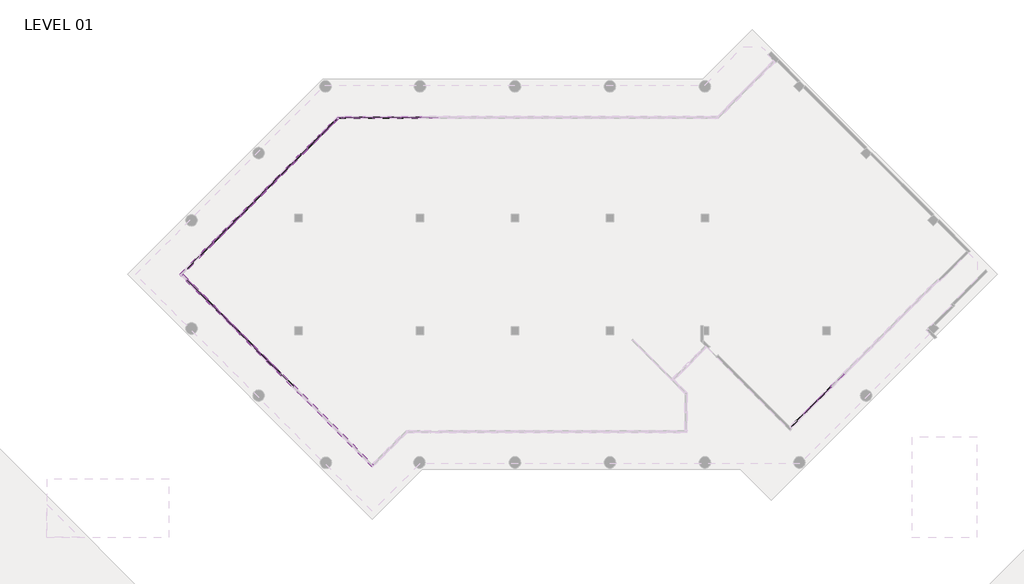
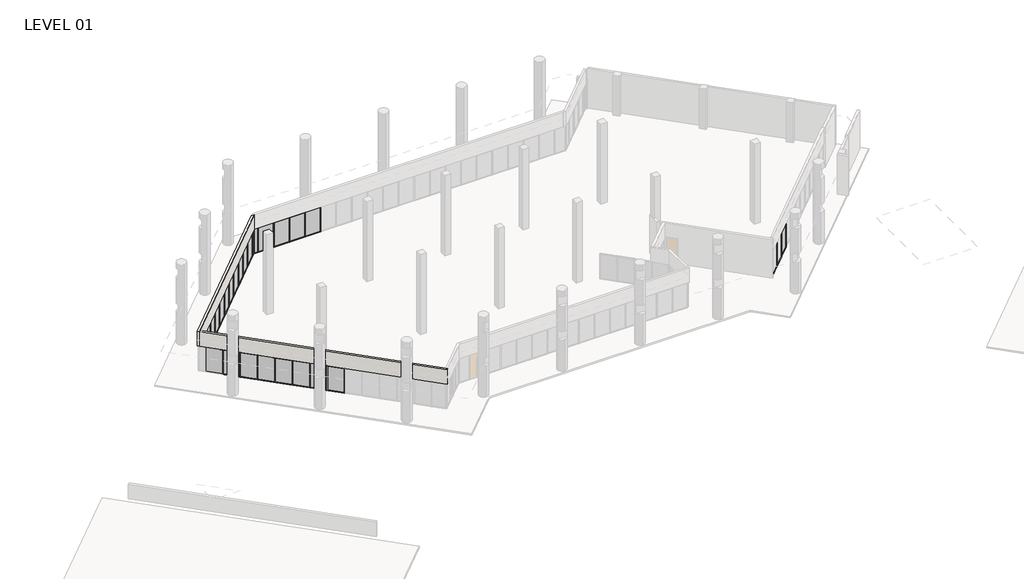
# One storey, part 12 of 24: 82 members, 26 plates, 2 walls.
"""IFC4 building model written with IfcOpenShell, lengths in millimetres."""

from ifc_helpers import new_model, si_unit, origin, place, context, project, spatial, faceted_brep, transform, mapped, element, save
from components import member_5247f267, member_16770488, member_1d3a199d, member_57f2eb73, member_e44af9ab, member_800970d4, member_cca1f9e6, plate_67294edd, plate_53ca565f, plate_8062c6fe, plate_87d7c655

model = new_model("IFC4")

# Units and contexts
model_context = context("Model", 3, world=origin())
ifc_project = project(units=[si_unit("LENGTHUNIT", "METRE", prefix="MILLI")], contexts=[model_context])

# Site, building, storey
site = spatial("IfcSite", under=ifc_project)
building = spatial("IfcBuilding", under=site)
storey = spatial("IfcBuildingStorey", under=building, Name="LEVEL 01", Elevation=0.0)

# Members
placement = place(None, origin())
member_shape = member_5247f267(model_context)
element("IfcMember", 1, ObjectType="Rectangular Mullion : 2\" x 4.5\" rectangular", at=placement, inside=storey, context=model_context, shape_type="MappedRepresentation", body=[
    mapped(member_shape, transform((18370.55, 117137.1023049, 0.0), x_axis=(0.0, 0.0, -1.0), y_axis=(0.0, 1.0, 0.0), z_axis=(1.0, 0.0, 0.0))),
])
element("IfcMember", 2, ObjectType="Rectangular Mullion : 2\" x 4.5\" rectangular", at=placement, inside=storey, context=model_context, shape_type="MappedRepresentation", body=[
    mapped(member_shape, transform((13798.55, 117137.1023049, 0.0), x_axis=(0.0, 0.0, -1.0), y_axis=(0.0, 1.0, 0.0), z_axis=(1.0, 0.0, 0.0))),
])
element("IfcMember", 3, ObjectType="Rectangular Mullion : 2\" x 4.5\" rectangular", at=placement, inside=storey, context=model_context, shape_type="MappedRepresentation", body=[
    mapped(member_shape, transform((9357.2482055, 114645.256013, 0.0), x_axis=(0.0, 0.0, -1.0), y_axis=(-0.7071067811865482, 0.7071067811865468, 0.0), z_axis=(0.7071067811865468, 0.7071067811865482, 0.0))),
])
element("IfcMember", 4, ObjectType="Rectangular Mullion : 2\" x 4.5\" rectangular", at=placement, inside=storey, context=model_context, shape_type="MappedRepresentation", body=[
    mapped(member_shape, transform((7201.9867365, 112489.994544, 0.0), x_axis=(0.0, 0.0, -1.0), y_axis=(-0.7071067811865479, 0.7071067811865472, 0.0), z_axis=(0.7071067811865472, 0.7071067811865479, 0.0))),
])
element("IfcMember", 5, ObjectType="Rectangular Mullion : 2\" x 4.5\" rectangular", at=placement, inside=storey, context=model_context, shape_type="MappedRepresentation", body=[
    mapped(member_shape, transform((6124.3560019, 111412.3638095, 0.0), x_axis=(0.0, 0.0, -1.0), y_axis=(-0.7071067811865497, 0.7071067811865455, 0.0), z_axis=(0.7071067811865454, 0.7071067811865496, 0.0))),
])
element("IfcMember", 6, ObjectType="Rectangular Mullion : 2\" x 4.5\" rectangular", at=placement, inside=storey, context=model_context, shape_type="MappedRepresentation", body=[
    mapped(member_shape, transform((5046.7252674, 110334.7330749, 0.0), x_axis=(0.0, 0.0, -1.0), y_axis=(-0.7071067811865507, 0.7071067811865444, 0.0), z_axis=(0.7071067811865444, 0.7071067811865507, 0.0))),
])
element("IfcMember", 7, ObjectType="Rectangular Mullion : 2\" x 4.5\" rectangular", at=placement, inside=storey, context=model_context, shape_type="MappedRepresentation", body=[
    mapped(member_shape, transform((2891.4637983, 108179.4716059, 0.0), x_axis=(0.0, 0.0, -1.0), y_axis=(-0.7071067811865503, 0.7071067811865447, 0.0), z_axis=(0.7071067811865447, 0.7071067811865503, 0.0))),
])
element("IfcMember", 8, ObjectType="Rectangular Mullion : 2\" x 4.5\" rectangular", at=placement, inside=storey, context=model_context, shape_type="MappedRepresentation", body=[
    mapped(member_shape, transform((1813.8330638, 107101.8408713, 0.0), x_axis=(0.0, 0.0, -1.0), y_axis=(-0.7071067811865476, 0.7071067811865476, 0.0), z_axis=(0.7071067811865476, 0.7071067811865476, 0.0))),
])
element("IfcMember", 9, ObjectType="Rectangular Mullion : 2\" x 4.5\" rectangular", at=placement, inside=storey, context=model_context, shape_type="MappedRepresentation", body=[
    mapped(member_shape, transform((772.3020264, 103023.4447759, 0.0), x_axis=(0.0, 0.0, -1.0), y_axis=(-0.707106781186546, -0.707106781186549, 0.0), z_axis=(-0.707106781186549, 0.707106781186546, 0.0))),
])
element("IfcMember", 10, ObjectType="Rectangular Mullion : 2\" x 4.5\" rectangular", at=placement, inside=storey, context=model_context, shape_type="MappedRepresentation", body=[
    mapped(member_shape, transform((2927.5634955, 100868.1833069, 0.0), x_axis=(0.0, 0.0, -1.0), y_axis=(-0.7071067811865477, -0.7071067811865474, 0.0), z_axis=(-0.7071067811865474, 0.7071067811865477, 0.0))),
])
element("IfcMember", 11, ObjectType="Rectangular Mullion : 2\" x 4.5\" rectangular", at=placement, inside=storey, context=model_context, shape_type="MappedRepresentation", body=[
    mapped(member_shape, transform((5082.8249645, 98712.9218378, 0.0), x_axis=(0.0, 0.0, -1.0), y_axis=(-0.7071067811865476, -0.7071067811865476, 0.0), z_axis=(-0.7071067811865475, 0.7071067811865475, 0.0))),
])
element("IfcMember", 12, ObjectType="Rectangular Mullion : 2\" x 4.5\" rectangular", at=placement, inside=storey, context=model_context, shape_type="MappedRepresentation", body=[
    mapped(member_shape, transform((7237.7290883, 96558.017714, 0.0), x_axis=(0.0, 0.0, -1.0), y_axis=(-0.7071067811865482, -0.7071067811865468, 0.0), z_axis=(-0.7071067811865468, 0.7071067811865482, 0.0))),
])
element("IfcMember", 13, ObjectType="Rectangular Mullion : 2\" x 4.5\" rectangular", at=placement, inside=storey, context=model_context, shape_type="MappedRepresentation", body=[
    mapped(member_shape, transform((50258.626106, 94402.4729083, 0.0), x_axis=(0.0, 0.0, -1.0), y_axis=(-0.7071067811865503, 0.7071067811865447, 0.0), z_axis=(0.7071067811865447, 0.7071067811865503, 0.0))),
])
element("IfcMember", 14, ObjectType="Rectangular Mullion : 2\" x 4.5\" rectangular", at=placement, inside=storey, context=model_context, shape_type="MappedRepresentation", body=[
    mapped(member_shape, transform((16846.55, 117137.1023049, 0.0), x_axis=(0.0, 0.0, -1.0), y_axis=(0.0, 1.0, 0.0), z_axis=(1.0, 0.0, 0.0))),
])
element("IfcMember", 15, ObjectType="Rectangular Mullion : 2\" x 4.5\" rectangular", at=placement, inside=storey, context=model_context, shape_type="MappedRepresentation", body=[
    mapped(member_shape, transform((15322.55, 117137.1023049, 0.0), x_axis=(0.0, 0.0, -1.0), y_axis=(0.0, 1.0, 0.0), z_axis=(1.0, 0.0, 0.0))),
])
element("IfcMember", 16, ObjectType="Rectangular Mullion : 2\" x 4.5\" rectangular", at=placement, inside=storey, context=model_context, shape_type="MappedRepresentation", body=[
    mapped(member_shape, transform((736.2023293, 106024.2101368, 0.0), x_axis=(0.0, 0.0, -1.0), y_axis=(-0.7071067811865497, 0.7071067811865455, 0.0), z_axis=(0.7071067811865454, 0.7071067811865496, 0.0))),
])
element("IfcMember", 17, ObjectType="Rectangular Mullion : 2\" x 4.5\" rectangular", at=placement, inside=storey, context=model_context, shape_type="MappedRepresentation", body=[
    mapped(member_shape, transform((3969.0945329, 109257.1023404, 0.0), x_axis=(0.0, 0.0, -1.0), y_axis=(-0.7071067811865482, 0.7071067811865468, 0.0), z_axis=(0.7071067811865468, 0.7071067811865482, 0.0))),
])
element("IfcMember", 18, ObjectType="Rectangular Mullion : 2\" x 4.5\" rectangular", at=placement, inside=storey, context=model_context, shape_type="MappedRepresentation", body=[
    mapped(member_shape, transform((8279.617471, 113567.6252785, 0.0), x_axis=(0.0, 0.0, -1.0), y_axis=(-0.70710678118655, 0.707106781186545, 0.0), z_axis=(0.707106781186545, 0.70710678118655, 0.0))),
])
element("IfcMember", 19, ObjectType="Rectangular Mullion : 2\" x 4.5\" rectangular", at=placement, inside=storey, context=model_context, shape_type="MappedRepresentation", body=[
    mapped(member_shape, transform((10434.87894, 115722.8867476, 0.0), x_axis=(0.0, 0.0, -1.0), y_axis=(-0.7071067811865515, 0.7071067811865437, 0.0), z_axis=(0.7071067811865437, 0.7071067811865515, 0.0))),
])
element("IfcMember", 20, ObjectType="Rectangular Mullion : 2\" x 4.5\" rectangular", at=placement, inside=storey, context=model_context, shape_type="MappedRepresentation", body=[
    mapped(member_shape, transform((11512.5096746, 116800.5174821, 0.0), x_axis=(0.0, 0.0, -1.0), y_axis=(-0.707106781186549, 0.7071067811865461, 0.0), z_axis=(0.7071067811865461, 0.707106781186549, 0.0))),
])
element("IfcMember", 21, ObjectType="Rectangular Mullion : 2\" x 4.5\" rectangular", at=placement, inside=storey, context=model_context, shape_type="MappedRepresentation", body=[
    mapped(member_shape, transform((1849.9327609, 101945.8140414, 0.0), x_axis=(0.0, 0.0, -1.0), y_axis=(-0.7071067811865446, -0.7071067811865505, 0.0), z_axis=(-0.7071067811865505, 0.7071067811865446, 0.0))),
])
element("IfcMember", 22, ObjectType="Rectangular Mullion : 2\" x 4.5\" rectangular", at=placement, inside=storey, context=model_context, shape_type="MappedRepresentation", body=[
    mapped(member_shape, transform((4005.19423, 99790.5525723, 0.0), x_axis=(0.0, 0.0, -1.0), y_axis=(-0.7071067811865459, -0.7071067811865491, 0.0), z_axis=(-0.7071067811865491, 0.7071067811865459, 0.0))),
])
element("IfcMember", 23, ObjectType="Rectangular Mullion : 2\" x 4.5\" rectangular", at=placement, inside=storey, context=model_context, shape_type="MappedRepresentation", body=[
    mapped(member_shape, transform((51336.2568405, 95480.1036428, 0.0), x_axis=(0.0, 0.0, -1.0), y_axis=(-0.7071067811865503, 0.7071067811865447, 0.0), z_axis=(0.7071067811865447, 0.7071067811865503, 0.0))),
])
element("IfcMember", 24, ObjectType="Rectangular Mullion : 2\" x 4.5\" rectangular", at=placement, inside=storey, context=model_context, shape_type="MappedRepresentation", body=[
    mapped(member_shape, transform((18421.35, 117137.1023049, 2590.8), x_axis=(0.0, 0.0, 1.0), y_axis=(0.0, 1.0, 0.0), z_axis=(-1.0, 0.0, 0.0))),
])
element("IfcMember", 25, ObjectType="Rectangular Mullion : 2\" x 4.5\" rectangular", at=placement, inside=storey, context=model_context, shape_type="MappedRepresentation", body=[
    mapped(member_shape, transform((13849.35, 117137.1023049, 2590.8), x_axis=(0.0, 0.0, 1.0), y_axis=(0.0, 1.0, 0.0), z_axis=(-1.0, 0.0, 0.0))),
])
element("IfcMember", 26, ObjectType="Rectangular Mullion : 2\" x 4.5\" rectangular", at=placement, inside=storey, context=model_context, shape_type="MappedRepresentation", body=[
    mapped(member_shape, transform((9393.16923, 114681.1770375, 2590.8), x_axis=(0.0, 0.0, 1.0), y_axis=(-0.7071067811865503, 0.7071067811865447, 0.0), z_axis=(-0.7071067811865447, -0.7071067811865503, 0.0))),
])
element("IfcMember", 27, ObjectType="Rectangular Mullion : 2\" x 4.5\" rectangular", at=placement, inside=storey, context=model_context, shape_type="MappedRepresentation", body=[
    mapped(member_shape, transform((7237.9077609, 112525.9155685, 2590.8), x_axis=(0.0, 0.0, 1.0), y_axis=(-0.7071067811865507, 0.7071067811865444, 0.0), z_axis=(-0.7071067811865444, -0.7071067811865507, 0.0))),
])
element("IfcMember", 28, ObjectType="Rectangular Mullion : 2\" x 4.5\" rectangular", at=placement, inside=storey, context=model_context, shape_type="MappedRepresentation", body=[
    mapped(member_shape, transform((6160.2770264, 111448.2848339, 2590.8), x_axis=(0.0, 0.0, 1.0), y_axis=(-0.7071067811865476, 0.7071067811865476, 0.0), z_axis=(-0.7071067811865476, -0.7071067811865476, 0.0))),
])
element("IfcMember", 29, ObjectType="Rectangular Mullion : 2\" x 4.5\" rectangular", at=placement, inside=storey, context=model_context, shape_type="MappedRepresentation", body=[
    mapped(member_shape, transform((5082.6462919, 110370.6540994, 2590.8), x_axis=(0.0, 0.0, 1.0), y_axis=(-0.7071067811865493, 0.7071067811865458, 0.0), z_axis=(-0.7071067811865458, -0.7071067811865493, 0.0))),
])
element("IfcMember", 30, ObjectType="Rectangular Mullion : 2\" x 4.5\" rectangular", at=placement, inside=storey, context=model_context, shape_type="MappedRepresentation", body=[
    mapped(member_shape, transform((2927.3848228, 108215.3926304, 2590.8), x_axis=(0.0, 0.0, 1.0), y_axis=(-0.7071067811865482, 0.7071067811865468, 0.0), z_axis=(-0.7071067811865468, -0.7071067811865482, 0.0))),
])
element("IfcMember", 31, ObjectType="Rectangular Mullion : 2\" x 4.5\" rectangular", at=placement, inside=storey, context=model_context, shape_type="MappedRepresentation", body=[
    mapped(member_shape, transform((1849.7540883, 107137.7618958, 2590.8), x_axis=(0.0, 0.0, 1.0), y_axis=(-0.7071067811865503, 0.7071067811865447, 0.0), z_axis=(-0.7071067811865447, -0.7071067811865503, 0.0))),
])
element("IfcMember", 32, ObjectType="Rectangular Mullion : 2\" x 4.5\" rectangular", at=placement, inside=storey, context=model_context, shape_type="MappedRepresentation", body=[
    mapped(member_shape, transform((736.3810019, 103059.3658004, 2590.8), x_axis=(0.0, 0.0, 1.0), y_axis=(-0.7071067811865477, -0.7071067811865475, 0.0), z_axis=(0.7071067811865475, -0.7071067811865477, 0.0))),
])
element("IfcMember", 33, ObjectType="Rectangular Mullion : 2\" x 4.5\" rectangular", at=placement, inside=storey, context=model_context, shape_type="MappedRepresentation", body=[
    mapped(member_shape, transform((2891.642471, 100904.1043313, 2590.8), x_axis=(0.0, 0.0, 1.0), y_axis=(-0.7071067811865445, -0.7071067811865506, 0.0), z_axis=(0.7071067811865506, -0.7071067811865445, 0.0))),
])
element("IfcMember", 34, ObjectType="Rectangular Mullion : 2\" x 4.5\" rectangular", at=placement, inside=storey, context=model_context, shape_type="MappedRepresentation", body=[
    mapped(member_shape, transform((5046.90394, 98748.8428623, 2590.8), x_axis=(0.0, 0.0, 1.0), y_axis=(-0.7071067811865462, -0.7071067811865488, 0.0), z_axis=(0.7071067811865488, -0.7071067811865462, 0.0))),
])
element("IfcMember", 35, ObjectType="Rectangular Mullion : 2\" x 4.5\" rectangular", at=placement, inside=storey, context=model_context, shape_type="MappedRepresentation", body=[
    mapped(member_shape, transform((50294.5471305, 94438.3939328, 2590.8), x_axis=(0.0, 0.0, 1.0), y_axis=(-0.7071067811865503, 0.7071067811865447, 0.0), z_axis=(-0.7071067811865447, -0.7071067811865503, 0.0))),
])
element("IfcMember", 36, ObjectType="Rectangular Mullion : 2\" x 4.5\" rectangular", at=placement, inside=storey, context=model_context, shape_type="MappedRepresentation", body=[
    mapped(member_shape, transform((16897.35, 117137.1023049, 2590.8), x_axis=(0.0, 0.0, 1.0), y_axis=(0.0, 1.0, 0.0), z_axis=(-1.0, 0.0, 0.0))),
])
element("IfcMember", 37, ObjectType="Rectangular Mullion : 2\" x 4.5\" rectangular", at=placement, inside=storey, context=model_context, shape_type="MappedRepresentation", body=[
    mapped(member_shape, transform((15373.35, 117137.1023049, 2590.8), x_axis=(0.0, 0.0, 1.0), y_axis=(0.0, 1.0, 0.0), z_axis=(-1.0, 0.0, 0.0))),
])
element("IfcMember", 38, ObjectType="Rectangular Mullion : 2\" x 4.5\" rectangular", at=placement, inside=storey, context=model_context, shape_type="MappedRepresentation", body=[
    mapped(member_shape, transform((12325.35, 117137.1023049, 2590.8), x_axis=(0.0, 0.0, 1.0), y_axis=(0.0, 1.0, 0.0), z_axis=(-1.0, 0.0, 0.0))),
])
element("IfcMember", 39, ObjectType="Rectangular Mullion : 2\" x 4.5\" rectangular", at=placement, inside=storey, context=model_context, shape_type="MappedRepresentation", body=[
    mapped(member_shape, transform((772.1233538, 106060.1311613, 2590.8), x_axis=(0.0, 0.0, 1.0), y_axis=(-0.7071067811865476, 0.7071067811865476, 0.0), z_axis=(-0.7071067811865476, -0.7071067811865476, 0.0))),
])
element("IfcMember", 40, ObjectType="Rectangular Mullion : 2\" x 4.5\" rectangular", at=placement, inside=storey, context=model_context, shape_type="MappedRepresentation", body=[
    mapped(member_shape, transform((4005.0155574, 109293.0233649, 2590.8), x_axis=(0.0, 0.0, 1.0), y_axis=(-0.7071067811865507, 0.7071067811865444, 0.0), z_axis=(-0.7071067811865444, -0.7071067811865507, 0.0))),
])
element("IfcMember", 41, ObjectType="Rectangular Mullion : 2\" x 4.5\" rectangular", at=placement, inside=storey, context=model_context, shape_type="MappedRepresentation", body=[
    mapped(member_shape, transform((8315.5384955, 113603.546303, 2590.8), x_axis=(0.0, 0.0, 1.0), y_axis=(-0.7071067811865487, 0.7071067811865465, 0.0), z_axis=(-0.7071067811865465, -0.7071067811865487, 0.0))),
])
element("IfcMember", 42, ObjectType="Rectangular Mullion : 2\" x 4.5\" rectangular", at=placement, inside=storey, context=model_context, shape_type="MappedRepresentation", body=[
    mapped(member_shape, transform((10470.7999645, 115758.8077721, 2590.8), x_axis=(0.0, 0.0, 1.0), y_axis=(-0.7071067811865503, 0.7071067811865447, 0.0), z_axis=(-0.7071067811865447, -0.7071067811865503, 0.0))),
])
element("IfcMember", 43, ObjectType="Rectangular Mullion : 2\" x 4.5\" rectangular", at=placement, inside=storey, context=model_context, shape_type="MappedRepresentation", body=[
    mapped(member_shape, transform((1814.0117365, 101981.7350659, 2590.8), x_axis=(0.0, 0.0, 1.0), y_axis=(-0.7071067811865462, -0.7071067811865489, 0.0), z_axis=(0.7071067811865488, -0.7071067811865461, 0.0))),
])
element("IfcMember", 44, ObjectType="Rectangular Mullion : 2\" x 4.5\" rectangular", at=placement, inside=storey, context=model_context, shape_type="MappedRepresentation", body=[
    mapped(member_shape, transform((3969.2732055, 99826.4735968, 2590.8), x_axis=(0.0, 0.0, 1.0), y_axis=(-0.7071067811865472, -0.7071067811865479, 0.0), z_axis=(0.7071067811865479, -0.7071067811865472, 0.0))),
])
element("IfcMember", 45, ObjectType="Rectangular Mullion : 2\" x 4.5\" rectangular", at=placement, inside=storey, context=model_context, shape_type="MappedRepresentation", body=[
    mapped(member_shape, transform((6124.5346746, 97671.2121278, 2590.8), x_axis=(0.0, 0.0, 1.0), y_axis=(-0.7071067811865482, -0.7071067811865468, 0.0), z_axis=(0.7071067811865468, -0.7071067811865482, 0.0))),
])
element("IfcMember", 46, ObjectType="Rectangular Mullion : 2\" x 4.5\" rectangular", at=placement, inside=storey, context=model_context, shape_type="MappedRepresentation", body=[
    mapped(member_shape, transform((51372.177865, 95516.0246673, 2590.8), x_axis=(0.0, 0.0, 1.0), y_axis=(-0.7071067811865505, 0.7071067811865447, 0.0), z_axis=(-0.7071067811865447, -0.7071067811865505, 0.0))),
])
element("IfcMember", 47, ObjectType="Rectangular Mullion : 2\" x 4.5\" rectangular", at=placement, inside=storey, context=model_context, shape_type="MappedRepresentation", body=[
    mapped(member_shape, transform((49216.9163959, 93360.7631983, 2590.8), x_axis=(0.0, 0.0, 1.0), y_axis=(-0.7071067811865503, 0.7071067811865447, 0.0), z_axis=(-0.7071067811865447, -0.7071067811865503, 0.0))),
])
member_2_shape = member_16770488(model_context)
element("IfcMember", 48, ObjectType="Rectangular Mullion : 2\" x 4.5\" rectangular", at=placement, inside=storey, context=model_context, shape_type="MappedRepresentation", body=[
    mapped(member_2_shape, transform((11899.8944974, 117137.1023049, 2590.8), x_axis=(0.0, 0.0, 1.0), y_axis=(0.0, 1.0, 0.0), z_axis=(-1.0, 0.0, 0.0))),
])
element("IfcMember", 49, ObjectType="Rectangular Mullion : 2\" x 4.5\" rectangular", at=placement, inside=storey, context=model_context, shape_type="MappedRepresentation", body=[
    mapped(member_2_shape, transform((12274.55, 117137.1023049, 0.0), x_axis=(0.0, 0.0, -1.0), y_axis=(0.0, 1.0, 0.0), z_axis=(1.0, 0.0, 0.0))),
])
member_3_shape = member_1d3a199d(model_context)
element("IfcMember", 50, ObjectType="Rectangular Mullion : 2\" x 4.5\" rectangular", at=placement, inside=storey, context=model_context, shape_type="MappedRepresentation", body=[
    mapped(member_3_shape, transform((11813.1734729, 117101.1812804, 0.0), x_axis=(0.0, 0.0, -1.0), y_axis=(-0.7071067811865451, 0.70710678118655, 0.0), z_axis=(0.7071067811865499, 0.707106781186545, 0.0))),
])
element("IfcMember", 51, ObjectType="Rectangular Mullion : 2\" x 4.5\" rectangular", at=placement, inside=storey, context=model_context, shape_type="MappedRepresentation", body=[
    mapped(member_3_shape, transform((11548.4306991, 116836.4385066, 2590.8), x_axis=(0.0, 0.0, 1.0), y_axis=(-0.7071067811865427, 0.7071067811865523, 0.0), z_axis=(-0.7071067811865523, -0.7071067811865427, 0.0))),
])
member_4_shape = member_57f2eb73(model_context)
element("IfcMember", 52, ObjectType="Rectangular Mullion : 2\" x 4.5\" rectangular", at=placement, inside=storey, context=model_context, shape_type="MappedRepresentation", body=[
    mapped(member_4_shape, transform((7201.8080638, 96593.9387385, 2590.8), x_axis=(0.0, 0.0, 1.0), y_axis=(-0.7071067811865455, -0.7071067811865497, 0.0), z_axis=(0.7071067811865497, -0.7071067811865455, 0.0))),
])
element("IfcMember", 53, ObjectType="Rectangular Mullion : 2\" x 4.5\" rectangular", at=placement, inside=storey, context=model_context, shape_type="MappedRepresentation", body=[
    mapped(member_4_shape, transform((6160.4556991, 97635.2911033, 0.0), x_axis=(0.0, 0.0, -1.0), y_axis=(-0.7071067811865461, -0.707106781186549, 0.0), z_axis=(-0.7071067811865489, 0.707106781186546, 0.0))),
])
member_5_shape = member_e44af9ab(model_context)
element("IfcMember", 54, ObjectType="Rectangular Mullion : 2\" x 4.5\" rectangular", at=placement, inside=storey, context=model_context, shape_type="MappedRepresentation", body=[
    mapped(member_5_shape, transform((18395.95, 117137.1023049, 0.0), x_axis=(-1.0, 0.0, 0.0), y_axis=(0.0, 1.0, 0.0), z_axis=(0.0, 0.0, -1.0))),
])
element("IfcMember", 55, ObjectType="Rectangular Mullion : 2\" x 4.5\" rectangular", at=placement, inside=storey, context=model_context, shape_type="MappedRepresentation", body=[
    mapped(member_5_shape, transform((16871.95, 117137.1023049, 0.0), x_axis=(-1.0, 0.0, 0.0), y_axis=(0.0, 1.0, 0.0), z_axis=(0.0, 0.0, -1.0))),
])
element("IfcMember", 56, ObjectType="Rectangular Mullion : 2\" x 4.5\" rectangular", at=placement, inside=storey, context=model_context, shape_type="MappedRepresentation", body=[
    mapped(member_5_shape, transform((13823.95, 117137.1023049, 0.0), x_axis=(-1.0, 0.0, 0.0), y_axis=(0.0, 1.0, 0.0), z_axis=(0.0, 0.0, -1.0))),
])
element("IfcMember", 57, ObjectType="Rectangular Mullion : 2\" x 4.5\" rectangular", at=placement, inside=storey, context=model_context, shape_type="MappedRepresentation", body=[
    mapped(member_5_shape, transform((9375.2087178, 114663.2165253, 0.0), x_axis=(-0.7071067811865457, -0.7071067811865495, 0.0), y_axis=(-0.7071067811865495, 0.7071067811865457, 0.0), z_axis=(0.0, 0.0, -1.0))),
])
element("IfcMember", 58, ObjectType="Rectangular Mullion : 2\" x 4.5\" rectangular", at=placement, inside=storey, context=model_context, shape_type="MappedRepresentation", body=[
    mapped(member_5_shape, transform((7219.9472487, 112507.9550562, 0.0), x_axis=(-0.7071067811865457, -0.7071067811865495, 0.0), y_axis=(-0.7071067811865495, 0.7071067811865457, 0.0), z_axis=(0.0, 0.0, -1.0))),
])
element("IfcMember", 59, ObjectType="Rectangular Mullion : 2\" x 4.5\" rectangular", at=placement, inside=storey, context=model_context, shape_type="MappedRepresentation", body=[
    mapped(member_5_shape, transform((6142.3165142, 111430.3243217, 0.0), x_axis=(-0.7071067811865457, -0.7071067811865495, 0.0), y_axis=(-0.7071067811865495, 0.7071067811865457, 0.0), z_axis=(0.0, 0.0, -1.0))),
])
element("IfcMember", 60, ObjectType="Rectangular Mullion : 2\" x 4.5\" rectangular", at=placement, inside=storey, context=model_context, shape_type="MappedRepresentation", body=[
    mapped(member_5_shape, transform((5064.6857796, 110352.6935872, 0.0), x_axis=(-0.7071067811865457, -0.7071067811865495, 0.0), y_axis=(-0.7071067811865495, 0.7071067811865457, 0.0), z_axis=(0.0, 0.0, -1.0))),
])
element("IfcMember", 61, ObjectType="Rectangular Mullion : 2\" x 4.5\" rectangular", at=placement, inside=storey, context=model_context, shape_type="MappedRepresentation", body=[
    mapped(member_5_shape, transform((2909.4243106, 108197.4321181, 0.0), x_axis=(-0.7071067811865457, -0.7071067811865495, 0.0), y_axis=(-0.7071067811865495, 0.7071067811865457, 0.0), z_axis=(0.0, 0.0, -1.0))),
])
element("IfcMember", 62, ObjectType="Rectangular Mullion : 2\" x 4.5\" rectangular", at=placement, inside=storey, context=model_context, shape_type="MappedRepresentation", body=[
    mapped(member_5_shape, transform((1831.7935761, 107119.8013836, 0.0), x_axis=(-0.7071067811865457, -0.7071067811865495, 0.0), y_axis=(-0.7071067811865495, 0.7071067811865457, 0.0), z_axis=(0.0, 0.0, -1.0))),
])
element("IfcMember", 63, ObjectType="Rectangular Mullion : 2\" x 4.5\" rectangular", at=placement, inside=storey, context=model_context, shape_type="MappedRepresentation", body=[
    mapped(member_5_shape, transform((754.3415142, 103041.4052881, 0.0), x_axis=(0.7071067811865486, -0.7071067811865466, 0.0), y_axis=(-0.7071067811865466, -0.7071067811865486, 0.0), z_axis=(0.0, 0.0, -1.0))),
])
element("IfcMember", 64, ObjectType="Rectangular Mullion : 2\" x 4.5\" rectangular", at=placement, inside=storey, context=model_context, shape_type="MappedRepresentation", body=[
    mapped(member_5_shape, transform((2909.6029832, 100886.1438191, 0.0), x_axis=(0.7071067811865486, -0.7071067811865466, 0.0), y_axis=(-0.7071067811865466, -0.7071067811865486, 0.0), z_axis=(0.0, 0.0, -1.0))),
])
element("IfcMember", 65, ObjectType="Rectangular Mullion : 2\" x 4.5\" rectangular", at=placement, inside=storey, context=model_context, shape_type="MappedRepresentation", body=[
    mapped(member_5_shape, transform((5064.8644523, 98730.88235, 0.0), x_axis=(0.7071067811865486, -0.7071067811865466, 0.0), y_axis=(-0.7071067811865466, -0.7071067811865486, 0.0), z_axis=(0.0, 0.0, -1.0))),
])
element("IfcMember", 66, ObjectType="Rectangular Mullion : 2\" x 4.5\" rectangular", at=placement, inside=storey, context=model_context, shape_type="MappedRepresentation", body=[
    mapped(member_5_shape, transform((7219.7685761, 96575.9782263, 0.0), x_axis=(0.7071067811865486, -0.7071067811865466, 0.0), y_axis=(-0.7071067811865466, -0.7071067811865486, 0.0), z_axis=(0.0, 0.0, -1.0))),
])
element("IfcMember", 67, ObjectType="Rectangular Mullion : 2\" x 4.5\" rectangular", at=placement, inside=storey, context=model_context, shape_type="MappedRepresentation", body=[
    mapped(member_5_shape, transform((50276.5866182, 94420.4334206, 0.0), x_axis=(-0.7071067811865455, -0.7071067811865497, 0.0), y_axis=(-0.7071067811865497, 0.7071067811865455, 0.0), z_axis=(0.0, 0.0, -1.0))),
])
element("IfcMember", 68, ObjectType="Rectangular Mullion : 2\" x 4.5\" rectangular", at=placement, inside=storey, context=model_context, shape_type="MappedRepresentation", body=[
    mapped(member_5_shape, transform((15347.95, 117137.1023049, 0.0), x_axis=(-1.0, 0.0, 0.0), y_axis=(0.0, 1.0, 0.0), z_axis=(0.0, 0.0, -1.0))),
])
element("IfcMember", 69, ObjectType="Rectangular Mullion : 2\" x 4.5\" rectangular", at=placement, inside=storey, context=model_context, shape_type="MappedRepresentation", body=[
    mapped(member_5_shape, transform((12299.95, 117137.1023049, 0.0), x_axis=(-1.0, 0.0, 0.0), y_axis=(0.0, 1.0, 0.0), z_axis=(0.0, 0.0, -1.0))),
])
element("IfcMember", 70, ObjectType="Rectangular Mullion : 2\" x 4.5\" rectangular", at=placement, inside=storey, context=model_context, shape_type="MappedRepresentation", body=[
    mapped(member_5_shape, transform((754.1628415, 106042.1706491, 0.0), x_axis=(-0.7071067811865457, -0.7071067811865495, 0.0), y_axis=(-0.7071067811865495, 0.7071067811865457, 0.0), z_axis=(0.0, 0.0, -1.0))),
])
element("IfcMember", 71, ObjectType="Rectangular Mullion : 2\" x 4.5\" rectangular", at=placement, inside=storey, context=model_context, shape_type="MappedRepresentation", body=[
    mapped(member_5_shape, transform((3987.0550451, 109275.0628526, 0.0), x_axis=(-0.7071067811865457, -0.7071067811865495, 0.0), y_axis=(-0.7071067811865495, 0.7071067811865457, 0.0), z_axis=(0.0, 0.0, -1.0))),
])
element("IfcMember", 72, ObjectType="Rectangular Mullion : 2\" x 4.5\" rectangular", at=placement, inside=storey, context=model_context, shape_type="MappedRepresentation", body=[
    mapped(member_5_shape, transform((8297.5779832, 113585.5857908, 0.0), x_axis=(-0.7071067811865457, -0.7071067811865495, 0.0), y_axis=(-0.7071067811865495, 0.7071067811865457, 0.0), z_axis=(0.0, 0.0, -1.0))),
])
element("IfcMember", 73, ObjectType="Rectangular Mullion : 2\" x 4.5\" rectangular", at=placement, inside=storey, context=model_context, shape_type="MappedRepresentation", body=[
    mapped(member_5_shape, transform((10452.8394523, 115740.8472598, 0.0), x_axis=(-0.7071067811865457, -0.7071067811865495, 0.0), y_axis=(-0.7071067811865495, 0.7071067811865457, 0.0), z_axis=(0.0, 0.0, -1.0))),
])
element("IfcMember", 74, ObjectType="Rectangular Mullion : 2\" x 4.5\" rectangular", at=placement, inside=storey, context=model_context, shape_type="MappedRepresentation", body=[
    mapped(member_5_shape, transform((11530.4701868, 116818.4779943, 0.0), x_axis=(-0.7071067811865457, -0.7071067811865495, 0.0), y_axis=(-0.7071067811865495, 0.7071067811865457, 0.0), z_axis=(0.0, 0.0, -1.0))),
])
element("IfcMember", 75, ObjectType="Rectangular Mullion : 2\" x 4.5\" rectangular", at=placement, inside=storey, context=model_context, shape_type="MappedRepresentation", body=[
    mapped(member_5_shape, transform((1831.9722487, 101963.7745536, 0.0), x_axis=(0.7071067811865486, -0.7071067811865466, 0.0), y_axis=(-0.7071067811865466, -0.7071067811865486, 0.0), z_axis=(0.0, 0.0, -1.0))),
])
element("IfcMember", 76, ObjectType="Rectangular Mullion : 2\" x 4.5\" rectangular", at=placement, inside=storey, context=model_context, shape_type="MappedRepresentation", body=[
    mapped(member_5_shape, transform((3987.2337178, 99808.5130846, 0.0), x_axis=(0.7071067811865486, -0.7071067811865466, 0.0), y_axis=(-0.7071067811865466, -0.7071067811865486, 0.0), z_axis=(0.0, 0.0, -1.0))),
])
element("IfcMember", 77, ObjectType="Rectangular Mullion : 2\" x 4.5\" rectangular", at=placement, inside=storey, context=model_context, shape_type="MappedRepresentation", body=[
    mapped(member_5_shape, transform((6142.4951868, 97653.2516155, 0.0), x_axis=(0.7071067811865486, -0.7071067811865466, 0.0), y_axis=(-0.7071067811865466, -0.7071067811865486, 0.0), z_axis=(0.0, 0.0, -1.0))),
])
element("IfcMember", 78, ObjectType="Rectangular Mullion : 2\" x 4.5\" rectangular", at=placement, inside=storey, context=model_context, shape_type="MappedRepresentation", body=[
    mapped(member_5_shape, transform((51354.2173528, 95498.0641551, 0.0), x_axis=(-0.7071067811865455, -0.7071067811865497, 0.0), y_axis=(-0.7071067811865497, 0.7071067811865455, 0.0), z_axis=(0.0, 0.0, -1.0))),
])
element("IfcMember", 79, ObjectType="Rectangular Mullion : 2\" x 4.5\" rectangular", at=placement, inside=storey, context=model_context, shape_type="MappedRepresentation", body=[
    mapped(member_5_shape, transform((49198.9558837, 93342.802686, 0.0), x_axis=(-0.7071067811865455, -0.7071067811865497, 0.0), y_axis=(-0.7071067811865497, 0.7071067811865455, 0.0), z_axis=(0.0, 0.0, -1.0))),
])
member_6_shape = member_800970d4(model_context)
element("IfcMember", 80, ObjectType="Rectangular Mullion : 2\" x 4.5\" rectangular", at=placement, inside=storey, context=model_context, shape_type="MappedRepresentation", body=[
    mapped(member_6_shape, transform((11849.0944974, 117137.1023049, 0.0), x_axis=(-1.0, 0.0, 0.0), y_axis=(0.0, 1.0, 0.0), z_axis=(0.0, 0.0, -1.0))),
])
element("IfcMember", 81, ObjectType="Rectangular Mullion : 2\" x 4.5\" rectangular", at=placement, inside=storey, context=model_context, shape_type="MappedRepresentation", body=[
    mapped(member_6_shape, transform((11849.0944974, 117137.1023049, 2590.8), x_axis=(0.7071067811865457, 0.7071067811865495, 0.0), y_axis=(-0.7071067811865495, 0.7071067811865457, 0.0), z_axis=(0.0, 0.0, 1.0))),
])
member_7_shape = member_cca1f9e6(model_context)
element("IfcMember", 82, ObjectType="Rectangular Mullion : 2\" x 4.5\" rectangular", at=placement, inside=storey, context=model_context, shape_type="MappedRepresentation", body=[
    mapped(member_7_shape, transform((49180.9953715, 93324.8421738, 0.0), x_axis=(0.0, 0.0, -1.0), y_axis=(-0.7071067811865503, 0.7071067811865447, 0.0), z_axis=(0.7071067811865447, 0.7071067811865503, 0.0))),
])

# Plates
plate_shape = plate_67294edd(model_context)
element("IfcPlate", 83, ObjectType="System Panel : 1/4\" Glass", at=placement, inside=storey, context=model_context, shape_type="MappedRepresentation", body=[
    mapped(plate_shape, transform((17633.95, 117137.1023049, 50.8), x_axis=(-1.0, 0.0, 0.0), y_axis=(0.0, -1.0, 0.0), z_axis=(0.0, 0.0, 1.0))),
])
element("IfcPlate", 84, ObjectType="System Panel : 1/4\" Glass", at=placement, inside=storey, context=model_context, shape_type="MappedRepresentation", body=[
    mapped(plate_shape, transform((16109.95, 117137.1023049, 50.8), x_axis=(-1.0, 0.0, 0.0), y_axis=(0.0, -1.0, 0.0), z_axis=(0.0, 0.0, 1.0))),
])
element("IfcPlate", 85, ObjectType="System Panel : 1/4\" Glass", at=placement, inside=storey, context=model_context, shape_type="MappedRepresentation", body=[
    mapped(plate_shape, transform((13061.95, 117137.1023049, 50.8), x_axis=(-1.0, 0.0, 0.0), y_axis=(0.0, -1.0, 0.0), z_axis=(0.0, 0.0, 1.0))),
])
element("IfcPlate", 86, ObjectType="System Panel : 1/4\" Glass", at=placement, inside=storey, context=model_context, shape_type="MappedRepresentation", body=[
    mapped(plate_shape, transform((8836.3933505, 114124.401158, 50.8), x_axis=(-0.7071067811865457, -0.7071067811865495, 0.0), y_axis=(0.7071067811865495, -0.7071067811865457, 0.0), z_axis=(0.0, 0.0, 1.0))),
])
element("IfcPlate", 87, ObjectType="System Panel : 1/4\" Glass", at=placement, inside=storey, context=model_context, shape_type="MappedRepresentation", body=[
    mapped(plate_shape, transform((6681.1318814, 111969.139689, 50.8), x_axis=(-0.7071067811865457, -0.7071067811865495, 0.0), y_axis=(0.7071067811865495, -0.7071067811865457, 0.0), z_axis=(0.0, 0.0, 1.0))),
])
element("IfcPlate", 88, ObjectType="System Panel : 1/4\" Glass", at=placement, inside=storey, context=model_context, shape_type="MappedRepresentation", body=[
    mapped(plate_shape, transform((5603.5011469, 110891.5089544, 50.8), x_axis=(-0.7071067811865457, -0.7071067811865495, 0.0), y_axis=(0.7071067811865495, -0.7071067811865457, 0.0), z_axis=(0.0, 0.0, 1.0))),
])
element("IfcPlate", 89, ObjectType="System Panel : 1/4\" Glass", at=placement, inside=storey, context=model_context, shape_type="MappedRepresentation", body=[
    mapped(plate_shape, transform((4525.8704124, 109813.8782199, 50.8), x_axis=(-0.7071067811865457, -0.7071067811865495, 0.0), y_axis=(0.7071067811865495, -0.7071067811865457, 0.0), z_axis=(0.0, 0.0, 1.0))),
])
element("IfcPlate", 90, ObjectType="System Panel : 1/4\" Glass", at=placement, inside=storey, context=model_context, shape_type="MappedRepresentation", body=[
    mapped(plate_shape, transform((2370.6089433, 107658.6167508, 50.8), x_axis=(-0.7071067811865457, -0.7071067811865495, 0.0), y_axis=(0.7071067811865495, -0.7071067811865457, 0.0), z_axis=(0.0, 0.0, 1.0))),
])
element("IfcPlate", 91, ObjectType="System Panel : 1/4\" Glass", at=placement, inside=storey, context=model_context, shape_type="MappedRepresentation", body=[
    mapped(plate_shape, transform((1292.9782088, 106580.9860163, 50.8), x_axis=(-0.7071067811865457, -0.7071067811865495, 0.0), y_axis=(0.7071067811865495, -0.7071067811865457, 0.0), z_axis=(0.0, 0.0, 1.0))),
])
element("IfcPlate", 92, ObjectType="System Panel : 1/4\" Glass", at=placement, inside=storey, context=model_context, shape_type="MappedRepresentation", body=[
    mapped(plate_shape, transform((1293.1568814, 102502.5899209, 50.8), x_axis=(0.7071067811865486, -0.7071067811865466, 0.0), y_axis=(0.7071067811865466, 0.7071067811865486, 0.0), z_axis=(0.0, 0.0, 1.0))),
])
element("IfcPlate", 93, ObjectType="System Panel : 1/4\" Glass", at=placement, inside=storey, context=model_context, shape_type="MappedRepresentation", body=[
    mapped(plate_shape, transform((3448.4183505, 100347.3284518, 50.8), x_axis=(0.7071067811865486, -0.7071067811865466, 0.0), y_axis=(0.7071067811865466, 0.7071067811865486, 0.0), z_axis=(0.0, 0.0, 1.0))),
])
element("IfcPlate", 94, ObjectType="System Panel : 1/4\" Glass", at=placement, inside=storey, context=model_context, shape_type="MappedRepresentation", body=[
    mapped(plate_shape, transform((5603.6798195, 98192.0669828, 50.8), x_axis=(0.7071067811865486, -0.7071067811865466, 0.0), y_axis=(0.7071067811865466, 0.7071067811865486, 0.0), z_axis=(0.0, 0.0, 1.0))),
])
element("IfcPlate", 95, ObjectType="System Panel : 1/4\" Glass", at=placement, inside=storey, context=model_context, shape_type="MappedRepresentation", body=[
    mapped(plate_shape, transform((7758.5839433, 96037.162859, 50.8), x_axis=(0.7071067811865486, -0.7071067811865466, 0.0), y_axis=(0.7071067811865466, 0.7071067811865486, 0.0), z_axis=(0.0, 0.0, 1.0))),
])
element("IfcPlate", 96, ObjectType="System Panel : 1/4\" Glass", at=placement, inside=storey, context=model_context, shape_type="MappedRepresentation", body=[
    mapped(plate_shape, transform((14585.95, 117137.1023049, 50.8), x_axis=(-1.0, 0.0, 0.0), y_axis=(0.0, -1.0, 0.0), z_axis=(0.0, 0.0, 1.0))),
])
element("IfcPlate", 97, ObjectType="System Panel : 1/4\" Glass", at=placement, inside=storey, context=model_context, shape_type="MappedRepresentation", body=[
    mapped(plate_shape, transform((215.3474743, 105503.3552818, 50.8), x_axis=(-0.7071067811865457, -0.7071067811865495, 0.0), y_axis=(0.7071067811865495, -0.7071067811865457, 0.0), z_axis=(0.0, 0.0, 1.0))),
])
element("IfcPlate", 98, ObjectType="System Panel : 1/4\" Glass", at=placement, inside=storey, context=model_context, shape_type="MappedRepresentation", body=[
    mapped(plate_shape, transform((215.5261469, 103580.2206554, 50.8), x_axis=(0.7071067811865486, -0.7071067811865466, 0.0), y_axis=(0.7071067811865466, 0.7071067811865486, 0.0), z_axis=(0.0, 0.0, 1.0))),
])
element("IfcPlate", 99, ObjectType="System Panel : 1/4\" Glass", at=placement, inside=storey, context=model_context, shape_type="MappedRepresentation", body=[
    mapped(plate_shape, transform((3448.2396778, 108736.2474854, 50.8), x_axis=(-0.7071067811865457, -0.7071067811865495, 0.0), y_axis=(0.7071067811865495, -0.7071067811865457, 0.0), z_axis=(0.0, 0.0, 1.0))),
])
element("IfcPlate", 100, ObjectType="System Panel : 1/4\" Glass", at=placement, inside=storey, context=model_context, shape_type="MappedRepresentation", body=[
    mapped(plate_shape, transform((7758.762616, 113046.7704235, 50.8), x_axis=(-0.7071067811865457, -0.7071067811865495, 0.0), y_axis=(0.7071067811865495, -0.7071067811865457, 0.0), z_axis=(0.0, 0.0, 1.0))),
])
element("IfcPlate", 101, ObjectType="System Panel : 1/4\" Glass", at=placement, inside=storey, context=model_context, shape_type="MappedRepresentation", body=[
    mapped(plate_shape, transform((9914.024085, 115202.0318925, 50.8), x_axis=(-0.7071067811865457, -0.7071067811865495, 0.0), y_axis=(0.7071067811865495, -0.7071067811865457, 0.0), z_axis=(0.0, 0.0, 1.0))),
])
element("IfcPlate", 102, ObjectType="System Panel : 1/4\" Glass", at=placement, inside=storey, context=model_context, shape_type="MappedRepresentation", body=[
    mapped(plate_shape, transform((10991.6548195, 116279.6626271, 50.8), x_axis=(-0.7071067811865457, -0.7071067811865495, 0.0), y_axis=(0.7071067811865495, -0.7071067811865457, 0.0), z_axis=(0.0, 0.0, 1.0))),
])
element("IfcPlate", 103, ObjectType="System Panel : 1/4\" Glass", at=placement, inside=storey, context=model_context, shape_type="MappedRepresentation", body=[
    mapped(plate_shape, transform((2370.787616, 101424.9591864, 50.8), x_axis=(0.7071067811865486, -0.7071067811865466, 0.0), y_axis=(0.7071067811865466, 0.7071067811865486, 0.0), z_axis=(0.0, 0.0, 1.0))),
])
element("IfcPlate", 104, ObjectType="System Panel : 1/4\" Glass", at=placement, inside=storey, context=model_context, shape_type="MappedRepresentation", body=[
    mapped(plate_shape, transform((4526.049085, 99269.6977173, 50.8), x_axis=(0.7071067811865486, -0.7071067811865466, 0.0), y_axis=(0.7071067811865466, 0.7071067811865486, 0.0), z_axis=(0.0, 0.0, 1.0))),
])
element("IfcPlate", 105, ObjectType="System Panel : 1/4\" Glass", at=placement, inside=storey, context=model_context, shape_type="MappedRepresentation", body=[
    mapped(plate_shape, transform((50815.4019855, 94959.2487878, 50.8), x_axis=(-0.7071067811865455, -0.7071067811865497, 0.0), y_axis=(0.7071067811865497, -0.7071067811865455, 0.0), z_axis=(0.0, 0.0, 1.0))),
])
plate_2_shape = plate_53ca565f(model_context)
element("IfcPlate", 106, ObjectType="System Panel : 1/4\" Glass", at=placement, inside=storey, context=model_context, shape_type="MappedRepresentation", body=[
    mapped(plate_2_shape, transform((12087.2222487, 117137.1023049, 50.8), x_axis=(-1.0, 0.0, 0.0), y_axis=(0.0, -1.0, 0.0), z_axis=(0.0, 0.0, 1.0))),
])
plate_3_shape = plate_8062c6fe(model_context)
element("IfcPlate", 107, ObjectType="System Panel : 1/4\" Glass", at=placement, inside=storey, context=model_context, shape_type="MappedRepresentation", body=[
    mapped(plate_3_shape, transform((11680.802086, 116968.8098935, 50.8), x_axis=(-0.7071067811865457, -0.7071067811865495, 0.0), y_axis=(0.7071067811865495, -0.7071067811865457, 0.0), z_axis=(0.0, 0.0, 1.0))),
])
plate_4_shape = plate_87d7c655(model_context)
element("IfcPlate", 108, ObjectType="System Panel : 1/4\" Glass", at=placement, inside=storey, context=model_context, shape_type="MappedRepresentation", body=[
    mapped(plate_4_shape, transform((6681.1318814, 97114.6149209, 50.8), x_axis=(0.7071067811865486, -0.7071067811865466, 0.0), y_axis=(0.7071067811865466, 0.7071067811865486, 0.0), z_axis=(0.0, 0.0, 1.0))),
])

# Walls
element("IfcWall", 109, ObjectType="8\" Existing Wall", at=placement, inside=storey, context=model_context, shape_type="Brep", body=[
    faceted_brep([(11603.8103995, 117035.5023049, 2590.8), (-889.8146005, 104541.8773049, 2590.8), (-889.8146005, 104541.8773049, 4089.4), (11603.8103995, 117035.5023049, 4089.4), (11891.1785953, 117035.5023049, 2590.8), (11891.1785953, 117035.5023049, 4089.4), (-602.4464047, 104541.8773049, 4089.4), (-746.1305026, 104398.193207, 4089.4), (-746.1305026, 104398.193207, 2590.8), (-602.4464047, 104541.8773049, 2590.8)], [[[0, 1, 2, 3]], [[4, 5, 6, 7, 8, 9]], [[1, 0, 4, 9, 8]], [[3, 2, 7, 6, 5]], [[0, 3, 5, 4]], [[2, 1, 8, 7]]]),
])
element("IfcWall", 110, ObjectType="8\" Existing Wall", at=placement, inside=storey, context=model_context, shape_type="Brep", body=[
    faceted_brep([(-746.1305026, 104398.193207, 2590.8), (14585.95, 89066.1127044, 2590.8), (14585.95, 89066.1127044, 4089.4), (-746.1305026, 104398.193207, 4089.4), (-602.4464047, 104541.8773049, 2590.8), (-602.4464047, 104541.8773049, 4089.4), (14585.95, 89353.4809003, 4089.4), (14729.6340979, 89209.7968023, 4089.4), (14729.6340979, 89209.7968023, 2590.8), (14585.95, 89353.4809003, 2590.8)], [[[0, 1, 2, 3]], [[4, 5, 6, 7, 8, 9]], [[1, 0, 4, 9, 8]], [[3, 2, 7, 6, 5]], [[0, 3, 5, 4]], [[2, 1, 8, 7]]]),
])

save(model, "model.ifc")
